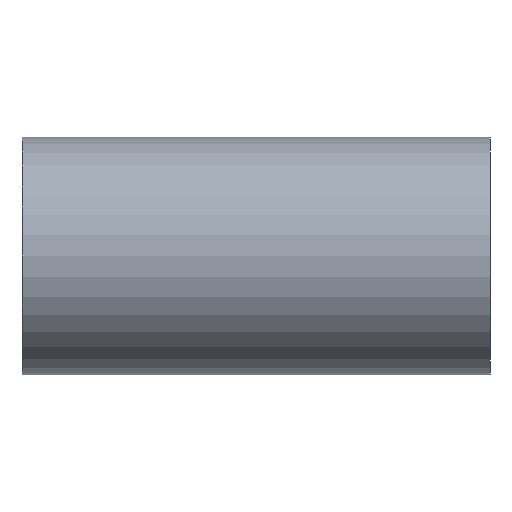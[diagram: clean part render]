
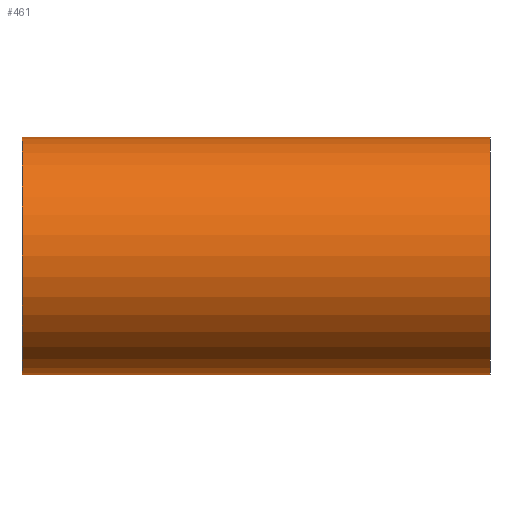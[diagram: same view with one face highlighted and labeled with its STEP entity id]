
A CAD part, front view. The second image highlights one B-rep face of the part: STEP entity #461.
In plain terms, the highlighted cylindrical face has radius 16.5 mm (diameter 33 mm), a full revolution.
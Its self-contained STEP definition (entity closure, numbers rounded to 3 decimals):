
#16=FACE_BOUND('',#107,.T.);
#17=FACE_BOUND('',#108,.T.);
#24=CYLINDRICAL_SURFACE('',#490,16.5);
#34=ELLIPSE('',#492,23.335,16.5);
#35=ELLIPSE('',#493,23.335,16.5);
#80=FACE_OUTER_BOUND('',#106,.T.);
#106=EDGE_LOOP('',(#401));
#107=EDGE_LOOP('',(#402,#403));
#108=EDGE_LOOP('',(#404));
#126=CIRCLE('',#491,16.5);
#127=CIRCLE('',#494,16.5);
#211=VERTEX_POINT('',#13596);
#212=VERTEX_POINT('',#13598);
#213=VERTEX_POINT('',#13599);
#214=VERTEX_POINT('',#13602);
#281=EDGE_CURVE('',#211,#211,#126,.T.);
#282=EDGE_CURVE('',#212,#213,#34,.T.);
#283=EDGE_CURVE('',#213,#212,#35,.T.);
#284=EDGE_CURVE('',#214,#214,#127,.T.);
#401=ORIENTED_EDGE('',*,*,#281,.F.);
#402=ORIENTED_EDGE('',*,*,#282,.T.);
#403=ORIENTED_EDGE('',*,*,#283,.T.);
#404=ORIENTED_EDGE('',*,*,#284,.F.);
#461=ADVANCED_FACE('',(#80,#16,#17),#24,.T.);
#490=AXIS2_PLACEMENT_3D('',#13595,#555,#556);
#491=AXIS2_PLACEMENT_3D('',#13597,#557,#558);
#492=AXIS2_PLACEMENT_3D('',#13600,#559,#560);
#493=AXIS2_PLACEMENT_3D('',#13601,#561,#562);
#494=AXIS2_PLACEMENT_3D('',#13603,#563,#564);
#555=DIRECTION('center_axis',(1.,0.,0.));
#556=DIRECTION('ref_axis',(0.,-1.,0.));
#557=DIRECTION('center_axis',(-1.,0.,0.));
#558=DIRECTION('ref_axis',(0.,-1.,0.));
#559=DIRECTION('center_axis',(-0.707,-0.707,0.));
#560=DIRECTION('ref_axis',(0.707,-0.707,0.));
#561=DIRECTION('center_axis',(0.707,-0.707,0.));
#562=DIRECTION('ref_axis',(0.707,0.707,0.));
#563=DIRECTION('center_axis',(1.,0.,0.));
#564=DIRECTION('ref_axis',(0.,-1.,0.));
#13595=CARTESIAN_POINT('Origin',(0.,0.,0.));
#13596=CARTESIAN_POINT('',(-32.5,16.5,0.));
#13597=CARTESIAN_POINT('Origin',(-32.5,0.,0.));
#13598=CARTESIAN_POINT('',(0.,0.,16.5));
#13599=CARTESIAN_POINT('',(0.,0.,-16.5));
#13600=CARTESIAN_POINT('Origin',(0.,0.,0.));
#13601=CARTESIAN_POINT('Origin',(0.,0.,0.));
#13602=CARTESIAN_POINT('',(32.5,16.5,0.));
#13603=CARTESIAN_POINT('Origin',(32.5,0.,0.));
